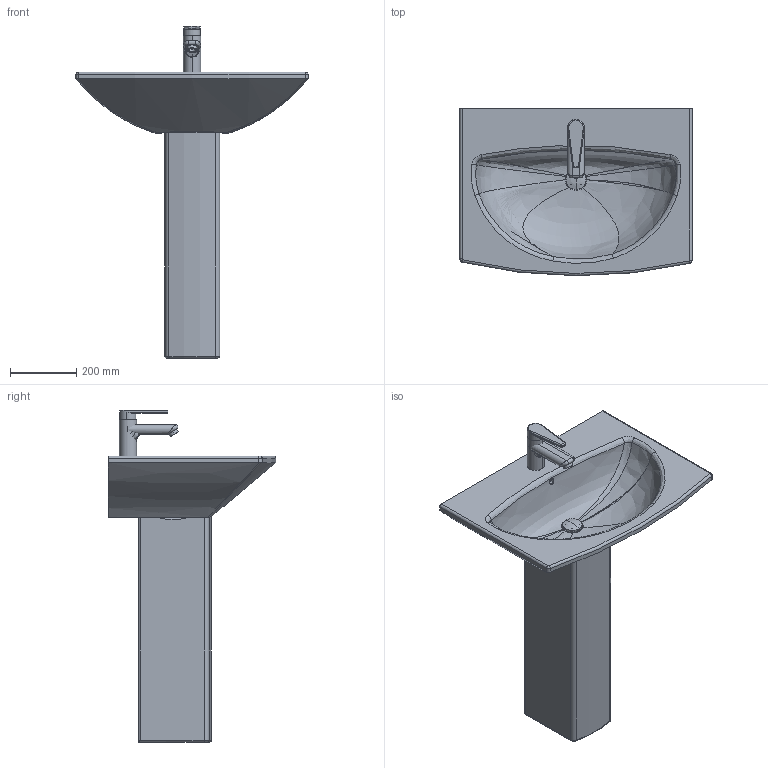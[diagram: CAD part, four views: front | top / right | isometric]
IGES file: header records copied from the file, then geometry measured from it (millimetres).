
Global section: file name: No Iges File Name specified; native system: AutoDesk Inventor R11.0; preprocessor: AutoDesk Inventor Iges Exporter R11.0; author: No Author specified; organization: No Organization specified; date: 20080114.180013; units: millimetre
Bounding box: 700 x 505 x 1001.1 mm (x, y, z)
Volume: 27994944.3 mm3; surface area: 2046101.8 mm2
Topology: 9 solids, 9 shells, 245 faces, 595 edges, 365 vertices
Faces by surface type: plane 63, cylinder 58, bspline 48, revolution 41, torus 27, sphere 5, cone 3
